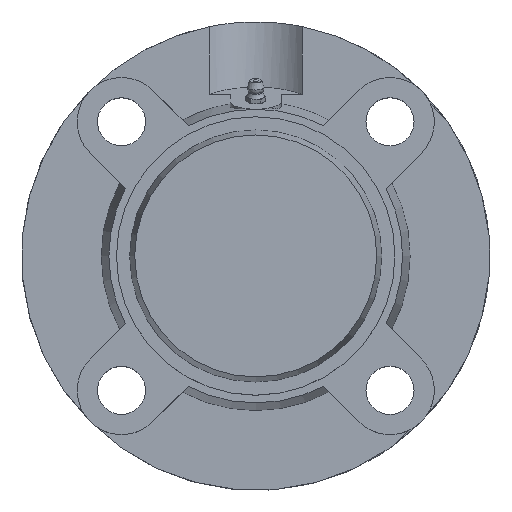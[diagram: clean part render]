
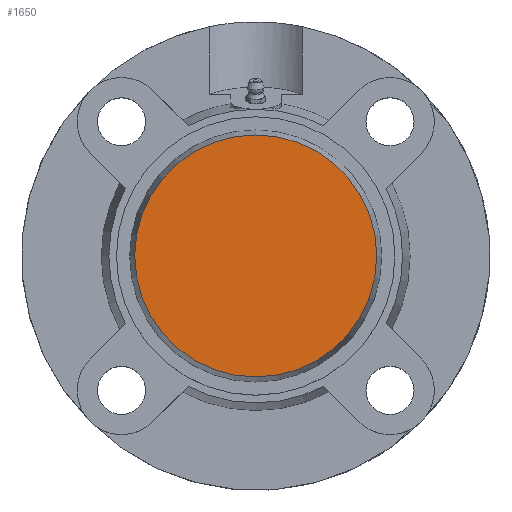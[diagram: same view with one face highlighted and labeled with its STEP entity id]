
A CAD part, top view. The second image highlights one B-rep face of the part: STEP entity #1650.
In plain terms, the highlighted planar face has unit normal (0, 0, 1).
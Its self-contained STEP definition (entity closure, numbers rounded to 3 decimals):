
#1634=CARTESIAN_POINT('',(0.0,23.901,32.));
#1635=DIRECTION('',(0.0,0.0,1.0));
#1636=DIRECTION('',(1.0,0.0,0.0));
#1637=AXIS2_PLACEMENT_3D('',#1634,#1635,#1636);
#1638=PLANE('',#1637);
#1639=CARTESIAN_POINT('',(0.0,47.802,32.));
#1640=VERTEX_POINT('',#1639);
#1641=CARTESIAN_POINT('',(0.0,0.,32.));
#1642=DIRECTION('',(0.0,0.0,-1.0));
#1643=DIRECTION('',(0.0,1.0,0.0));
#1644=AXIS2_PLACEMENT_3D('',#1641,#1642,#1643);
#1645=CIRCLE('',#1644,47.802);
#1646=EDGE_CURVE('',#1640,#1640,#1645,.T.);
#1647=ORIENTED_EDGE('',*,*,#1646,.F.);
#1648=EDGE_LOOP('',(#1647));
#1649=FACE_OUTER_BOUND('',#1648,.T.);
#1650=ADVANCED_FACE('',(#1649),#1638,.T.);
